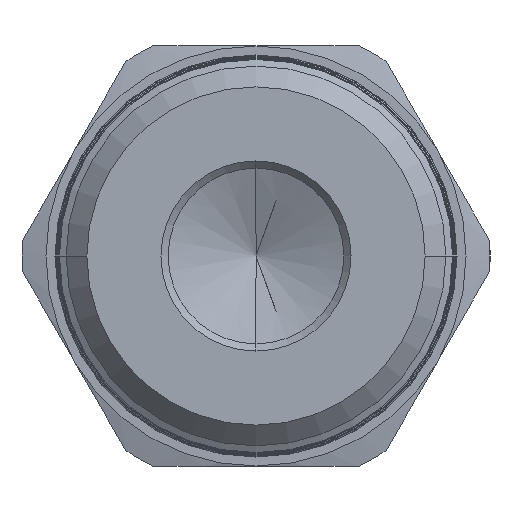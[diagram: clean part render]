
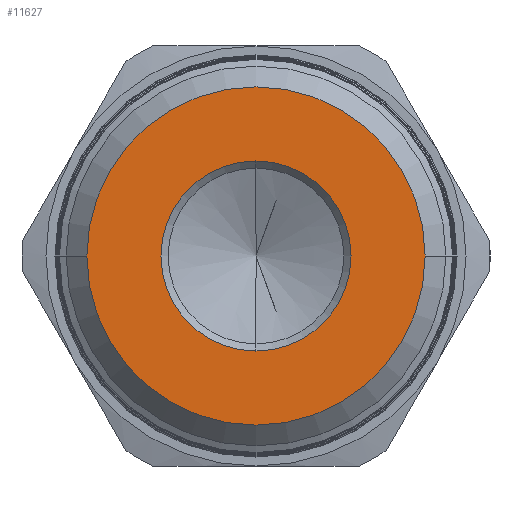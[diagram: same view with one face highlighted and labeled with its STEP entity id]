
A CAD part, left-side view. The second image highlights one B-rep face of the part: STEP entity #11627.
In plain terms, the highlighted planar face has unit normal (-1, 0, 0).
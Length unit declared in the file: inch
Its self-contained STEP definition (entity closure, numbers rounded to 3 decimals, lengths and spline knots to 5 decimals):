
#389 = AXIS2_PLACEMENT_3D ( 'NONE', #16130, #16137, #16138 ) ;
#777 = CIRCLE ( 'NONE', #780, 0.198 ) ;
#780 = AXIS2_PLACEMENT_3D ( 'NONE', #14809, #14810, #14811 ) ;
#1146 = CIRCLE ( 'NONE', #1219, 0.35226 ) ;
#1219 = AXIS2_PLACEMENT_3D ( 'NONE', #15260, #15261, #15262 ) ;
#2504 = VERTEX_POINT ( 'NONE', #14153 ) ;
#2590 = VERTEX_POINT ( 'NONE', #14236 ) ;
#2679 = VERTEX_POINT ( 'NONE', #14324 ) ;
#2708 = VERTEX_POINT ( 'NONE', #14353 ) ;
#8216 = CARTESIAN_POINT ( 'NONE',  ( 0., 0., 0. ) ) ;
#8217 = DIRECTION ( 'NONE',  ( -1., 0., 0. ) ) ;
#8218 = DIRECTION ( 'NONE',  ( 0., -1., 0. ) ) ;
#8282 = CARTESIAN_POINT ( 'NONE',  ( 0., 0., 0. ) ) ;
#8283 = DIRECTION ( 'NONE',  ( 1., 0., 0. ) ) ;
#8284 = DIRECTION ( 'NONE',  ( 0., 0., -1. ) ) ;
#9830 = EDGE_LOOP ( 'NONE', ( #11269, #11270 ) ) ;
#9878 = EDGE_LOOP ( 'NONE', ( #11271, #11272 ) ) ;
#10026 = EDGE_CURVE ( 'NONE', #2590, #2504, #777, .T. ) ;
#10143 = CIRCLE ( 'NONE', #10181, 0.35226 ) ;
#10181 = AXIS2_PLACEMENT_3D ( 'NONE', #8216, #8217, #8218 ) ;
#10274 = AXIS2_PLACEMENT_3D ( 'NONE', #8282, #8283, #8284 ) ;
#10311 = CIRCLE ( 'NONE', #10274, 0.198 ) ;
#11269 = ORIENTED_EDGE ( 'NONE', *, *, #10026, .T. ) ;
#11270 = ORIENTED_EDGE ( 'NONE', *, *, #13882, .T. ) ;
#11271 = ORIENTED_EDGE ( 'NONE', *, *, #13860, .T. ) ;
#11272 = ORIENTED_EDGE ( 'NONE', *, *, #11461, .T. ) ;
#11461 = EDGE_CURVE ( 'NONE', #2679, #2708, #1146, .T. ) ;
#11627 = ADVANCED_FACE ( 'NONE', ( #16133, #16134 ), #16135, .F. ) ;
#13860 = EDGE_CURVE ( 'NONE', #2708, #2679, #10143, .T. ) ;
#13882 = EDGE_CURVE ( 'NONE', #2504, #2590, #10311, .T. ) ;
#14153 = CARTESIAN_POINT ( 'NONE',  ( 0., 0., -0.198 ) ) ;
#14236 = CARTESIAN_POINT ( 'NONE',  ( 0., 0., 0.198 ) ) ;
#14324 = CARTESIAN_POINT ( 'NONE',  ( 0., -0.35226, 0. ) ) ;
#14353 = CARTESIAN_POINT ( 'NONE',  ( 0., 0.35226, 0. ) ) ;
#14809 = CARTESIAN_POINT ( 'NONE',  ( 0., 0., 0. ) ) ;
#14810 = DIRECTION ( 'NONE',  ( 1., 0., 0. ) ) ;
#14811 = DIRECTION ( 'NONE',  ( 0., 0., -1. ) ) ;
#15260 = CARTESIAN_POINT ( 'NONE',  ( 0., 0., 0. ) ) ;
#15261 = DIRECTION ( 'NONE',  ( -1., 0., 0. ) ) ;
#15262 = DIRECTION ( 'NONE',  ( 0., -1., 0. ) ) ;
#16130 = CARTESIAN_POINT ( 'NONE',  ( 0., 0.50518, 0. ) ) ;
#16133 = FACE_BOUND ( 'NONE', #9830, .T. ) ;
#16134 = FACE_OUTER_BOUND ( 'NONE', #9878, .T. ) ;
#16135 = PLANE ( 'NONE',  #389 ) ;
#16137 = DIRECTION ( 'NONE',  ( 1., 0., 0. ) ) ;
#16138 = DIRECTION ( 'NONE',  ( 0., 0., -1. ) ) ;
